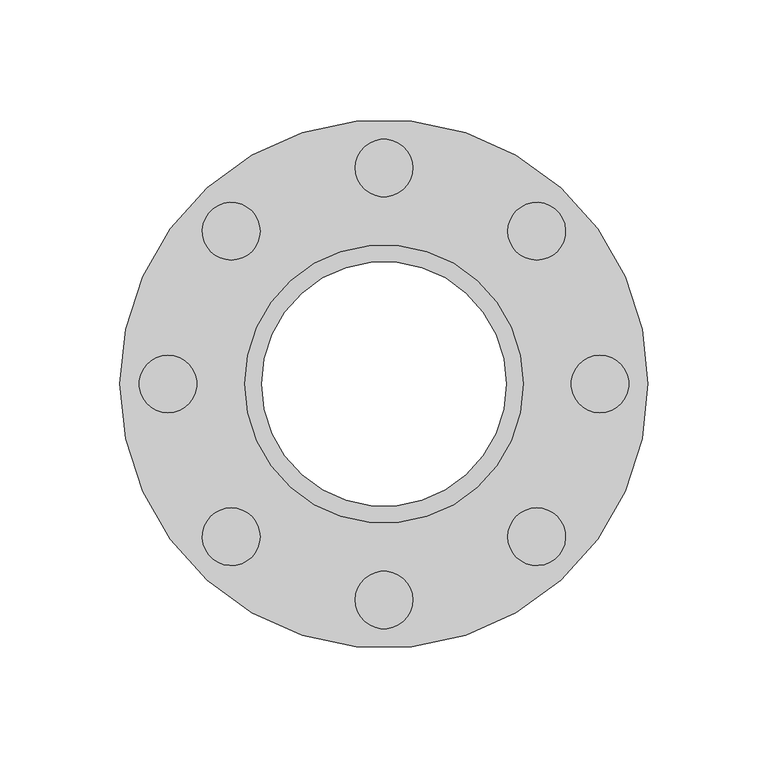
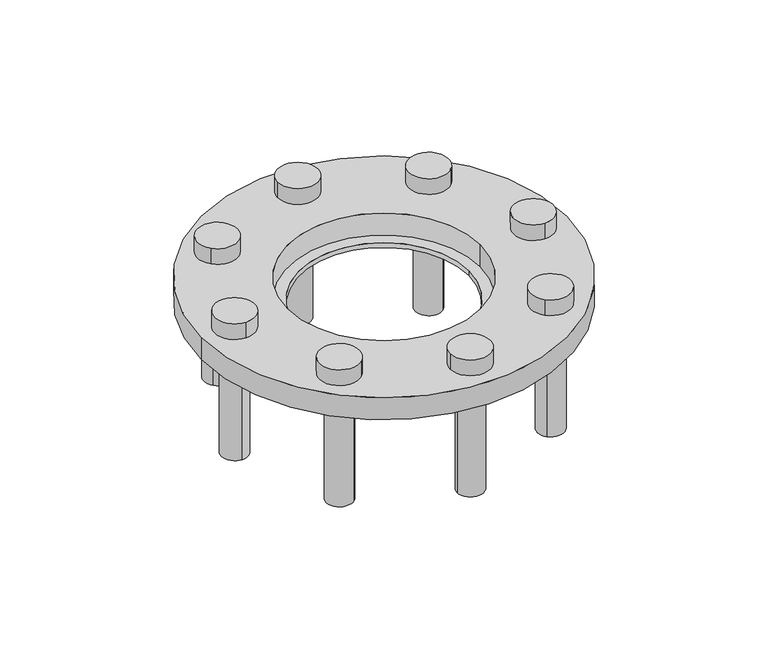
"""IFC4 building model written with IfcOpenShell, lengths in millimetres: pipe fitting geometry, NLRS_52_PIF_UN_PE set flens_geb : DN50-300 / ø50-315."""

from ifc_helpers import new_model, si_unit, point, frame, frame_2d, origin, origin_with_axes, origin_2d, place, context, project, spatial, circle_curve, trimmed, segment, composite_curve, outline, extrude, source, transform, mapped, element, save


def pipe_fitting_94b47f5e(model_context):
    return source(origin(), model_context, "Body", "SweptSolid", [
        extrude(outline(composite_curve([segment(trimmed(circle_curve(frame_2d((90.0, 0.0)), 12.0), [point((90.0, 12.0))], [point((90.0, -12.0))], False, "CARTESIAN"), True, "CONTINUOUS"), segment(trimmed(circle_curve(frame_2d((90.0, 0.0)), 12.0), [point((90.0, -12.0))], [point((90.0, 12.0))], False, "CARTESIAN"), True, "CONTINUOUS")], self_intersect=False)), frame((0.0, 0.0, 17.0), z_axis=(0.0, 0.0, 1.0), x_axis=(1.0, 0.0, 0.0)), (0.0, 0.0, 1.0), 10.0),
        extrude(outline(composite_curve([segment(trimmed(circle_curve(frame_2d((90.0, 0.0)), 8.0), [point((90.0, 8.0))], [point((90.0, -8.0))], False, "CARTESIAN"), True, "CONTINUOUS"), segment(trimmed(circle_curve(frame_2d((90.0, 0.0)), 8.0), [point((90.0, -8.0))], [point((90.0, 8.0))], False, "CARTESIAN"), True, "CONTINUOUS")], self_intersect=False)), frame((0.0, 0.0, -63.0), z_axis=(0.0, 0.0, 1.0), x_axis=(1.0, 0.0, 0.0)), (0.0, 0.0, 1.0), 80.0),
        extrude(outline(composite_curve([segment(trimmed(circle_curve(frame_2d((63.6396103, -63.6396103)), 12.0), [point((72.1248917, -55.1543289))], [point((55.1543289, -72.1248917))], False, "CARTESIAN"), True, "CONTINUOUS"), segment(trimmed(circle_curve(frame_2d((63.6396103, -63.6396103)), 12.0), [point((55.1543289, -72.1248917))], [point((72.1248917, -55.1543289))], False, "CARTESIAN"), True, "CONTINUOUS")], self_intersect=False)), frame((0.0, 0.0, 17.0), z_axis=(0.0, 0.0, 1.0), x_axis=(1.0, 0.0, 0.0)), (0.0, 0.0, 1.0), 10.0),
        extrude(outline(composite_curve([segment(trimmed(circle_curve(frame_2d((63.6396103, -63.6396103)), 8.0), [point((69.2964646, -57.9827561))], [point((57.9827561, -69.2964646))], False, "CARTESIAN"), True, "CONTINUOUS"), segment(trimmed(circle_curve(frame_2d((63.6396103, -63.6396103)), 8.0), [point((57.9827561, -69.2964646))], [point((69.2964646, -57.9827561))], False, "CARTESIAN"), True, "CONTINUOUS")], self_intersect=False)), frame((0.0, 0.0, -63.0), z_axis=(0.0, 0.0, 1.0), x_axis=(1.0, 0.0, 0.0)), (0.0, 0.0, 1.0), 80.0),
        extrude(outline(composite_curve([segment(trimmed(circle_curve(frame_2d((0.0, -90.0)), 12.0), [point((12.0, -90.0))], [point((-12.0, -90.0))], False, "CARTESIAN"), True, "CONTINUOUS"), segment(trimmed(circle_curve(frame_2d((0.0, -90.0)), 12.0), [point((-12.0, -90.0))], [point((12.0, -90.0))], False, "CARTESIAN"), True, "CONTINUOUS")], self_intersect=False)), frame((0.0, 0.0, 17.0), z_axis=(0.0, 0.0, 1.0), x_axis=(1.0, 0.0, 0.0)), (0.0, 0.0, 1.0), 10.0),
        extrude(outline(composite_curve([segment(trimmed(circle_curve(frame_2d((0.0, -90.0)), 8.0), [point((8.0, -90.0))], [point((-8.0, -90.0))], False, "CARTESIAN"), True, "CONTINUOUS"), segment(trimmed(circle_curve(frame_2d((0.0, -90.0)), 8.0), [point((-8.0, -90.0))], [point((8.0, -90.0))], False, "CARTESIAN"), True, "CONTINUOUS")], self_intersect=False)), frame((0.0, 0.0, -63.0), z_axis=(0.0, 0.0, 1.0), x_axis=(1.0, 0.0, 0.0)), (0.0, 0.0, 1.0), 80.0),
        extrude(outline(composite_curve([segment(trimmed(circle_curve(frame_2d((-63.6396103, -63.6396103)), 12.0), [point((-55.1543289, -72.1248917))], [point((-72.1248917, -55.1543289))], False, "CARTESIAN"), True, "CONTINUOUS"), segment(trimmed(circle_curve(frame_2d((-63.6396103, -63.6396103)), 12.0), [point((-72.1248917, -55.1543289))], [point((-55.1543289, -72.1248917))], False, "CARTESIAN"), True, "CONTINUOUS")], self_intersect=False)), frame((0.0, 0.0, 17.0), z_axis=(0.0, 0.0, 1.0), x_axis=(1.0, 0.0, 0.0)), (0.0, 0.0, 1.0), 10.0),
        extrude(outline(composite_curve([segment(trimmed(circle_curve(frame_2d((-63.6396103, -63.6396103)), 8.0), [point((-57.9827561, -69.2964646))], [point((-69.2964646, -57.9827561))], False, "CARTESIAN"), True, "CONTINUOUS"), segment(trimmed(circle_curve(frame_2d((-63.6396103, -63.6396103)), 8.0), [point((-69.2964646, -57.9827561))], [point((-57.9827561, -69.2964646))], False, "CARTESIAN"), True, "CONTINUOUS")], self_intersect=False)), frame((0.0, 0.0, -63.0), z_axis=(0.0, 0.0, 1.0), x_axis=(1.0, 0.0, 0.0)), (0.0, 0.0, 1.0), 80.0),
        extrude(outline(composite_curve([segment(trimmed(circle_curve(frame_2d((-90.0, 0.0)), 12.0), [point((-90.0, -12.0))], [point((-90.0, 12.0))], False, "CARTESIAN"), True, "CONTINUOUS"), segment(trimmed(circle_curve(frame_2d((-90.0, 0.0)), 12.0), [point((-90.0, 12.0))], [point((-90.0, -12.0))], False, "CARTESIAN"), True, "CONTINUOUS")], self_intersect=False)), frame((0.0, 0.0, 17.0), z_axis=(0.0, 0.0, 1.0), x_axis=(1.0, 0.0, 0.0)), (0.0, 0.0, 1.0), 10.0),
        extrude(outline(composite_curve([segment(trimmed(circle_curve(frame_2d((-90.0, 0.0)), 8.0), [point((-90.0, -8.0))], [point((-90.0, 8.0))], False, "CARTESIAN"), True, "CONTINUOUS"), segment(trimmed(circle_curve(frame_2d((-90.0, 0.0)), 8.0), [point((-90.0, 8.0))], [point((-90.0, -8.0))], False, "CARTESIAN"), True, "CONTINUOUS")], self_intersect=False)), frame((0.0, 0.0, -63.0), z_axis=(0.0, 0.0, 1.0), x_axis=(1.0, 0.0, 0.0)), (0.0, 0.0, 1.0), 80.0),
        extrude(outline(composite_curve([segment(trimmed(circle_curve(frame_2d((-63.6396103, 63.6396103)), 12.0), [point((-72.1248917, 55.1543289))], [point((-55.1543289, 72.1248917))], False, "CARTESIAN"), True, "CONTINUOUS"), segment(trimmed(circle_curve(frame_2d((-63.6396103, 63.6396103)), 12.0), [point((-55.1543289, 72.1248917))], [point((-72.1248917, 55.1543289))], False, "CARTESIAN"), True, "CONTINUOUS")], self_intersect=False)), frame((0.0, 0.0, 17.0), z_axis=(0.0, 0.0, 1.0), x_axis=(1.0, 0.0, 0.0)), (0.0, 0.0, 1.0), 10.0),
        extrude(outline(composite_curve([segment(trimmed(circle_curve(frame_2d((-63.6396103, 63.6396103)), 8.0), [point((-69.2964646, 57.9827561))], [point((-57.9827561, 69.2964646))], False, "CARTESIAN"), True, "CONTINUOUS"), segment(trimmed(circle_curve(frame_2d((-63.6396103, 63.6396103)), 8.0), [point((-57.9827561, 69.2964646))], [point((-69.2964646, 57.9827561))], False, "CARTESIAN"), True, "CONTINUOUS")], self_intersect=False)), frame((0.0, 0.0, -63.0), z_axis=(0.0, 0.0, 1.0), x_axis=(1.0, 0.0, 0.0)), (0.0, 0.0, 1.0), 80.0),
        extrude(outline(composite_curve([segment(trimmed(circle_curve(frame_2d((63.6396103, 63.6396103)), 12.0), [point((55.1543289, 72.1248917))], [point((72.1248917, 55.1543289))], False, "CARTESIAN"), True, "CONTINUOUS"), segment(trimmed(circle_curve(frame_2d((63.6396103, 63.6396103)), 12.0), [point((72.1248917, 55.1543289))], [point((55.1543289, 72.1248917))], False, "CARTESIAN"), True, "CONTINUOUS")], self_intersect=False)), frame((0.0, 0.0, 17.0), z_axis=(0.0, 0.0, 1.0), x_axis=(1.0, 0.0, 0.0)), (0.0, 0.0, 1.0), 10.0),
        extrude(outline(composite_curve([segment(trimmed(circle_curve(frame_2d((63.6396103, 63.6396103)), 8.0), [point((57.9827561, 69.2964646))], [point((69.2964646, 57.9827561))], False, "CARTESIAN"), True, "CONTINUOUS"), segment(trimmed(circle_curve(frame_2d((63.6396103, 63.6396103)), 8.0), [point((69.2964646, 57.9827561))], [point((57.9827561, 69.2964646))], False, "CARTESIAN"), True, "CONTINUOUS")], self_intersect=False)), frame((0.0, 0.0, -63.0), z_axis=(0.0, 0.0, 1.0), x_axis=(1.0, 0.0, 0.0)), (0.0, 0.0, 1.0), 80.0),
        extrude(outline(composite_curve([segment(trimmed(circle_curve(frame_2d((0.0, 90.0)), 12.0), [point((-12.0, 90.0))], [point((12.0, 90.0))], False, "CARTESIAN"), True, "CONTINUOUS"), segment(trimmed(circle_curve(frame_2d((0.0, 90.0)), 12.0), [point((12.0, 90.0))], [point((-12.0, 90.0))], False, "CARTESIAN"), True, "CONTINUOUS")], self_intersect=False)), frame((0.0, 0.0, 17.0), z_axis=(0.0, 0.0, 1.0), x_axis=(1.0, 0.0, 0.0)), (0.0, 0.0, 1.0), 10.0),
        extrude(outline(composite_curve([segment(trimmed(circle_curve(frame_2d((0.0, 90.0)), 8.0), [point((-8.0, 90.0))], [point((8.0, 90.0))], False, "CARTESIAN"), True, "CONTINUOUS"), segment(trimmed(circle_curve(frame_2d((0.0, 90.0)), 8.0), [point((8.0, 90.0))], [point((-8.0, 90.0))], False, "CARTESIAN"), True, "CONTINUOUS")], self_intersect=False)), frame((0.0, 0.0, -63.0), z_axis=(0.0, 0.0, 1.0), x_axis=(1.0, 0.0, 0.0)), (0.0, 0.0, 1.0), 80.0),
        extrude(outline(composite_curve([segment(trimmed(circle_curve(origin_2d(), 110.0), [point((-110.0, 0.0))], [point((110.0, 0.0))], False, "CARTESIAN"), True, "CONTINUOUS"), segment(trimmed(circle_curve(origin_2d(), 110.0), [point((110.0, 0.0))], [point((-110.0, 0.0))], False, "CARTESIAN"), True, "CONTINUOUS")], self_intersect=False), holes=[composite_curve([segment(trimmed(circle_curve(origin_2d(), 58.0), [point((-58.0, 0.0))], [point((58.0, 0.0))], True, "CARTESIAN"), True, "CONTINUOUS"), segment(trimmed(circle_curve(origin_2d(), 58.0), [point((58.0, 0.0))], [point((-58.0, 0.0))], True, "CARTESIAN"), True, "CONTINUOUS")], self_intersect=False), composite_curve([segment(trimmed(circle_curve(frame_2d((0.0, 90.0)), 9.0), [point((-9.0, 90.0))], [point((9.0, 90.0))], True, "CARTESIAN"), True, "CONTINUOUS"), segment(trimmed(circle_curve(frame_2d((0.0, 90.0)), 9.0), [point((9.0, 90.0))], [point((-9.0, 90.0))], True, "CARTESIAN"), True, "CONTINUOUS")], self_intersect=False), composite_curve([segment(trimmed(circle_curve(frame_2d((63.6396103, 63.6396103)), 9.0), [point((57.2756493, 70.0035713))], [point((70.0035713, 57.2756493))], True, "CARTESIAN"), True, "CONTINUOUS"), segment(trimmed(circle_curve(frame_2d((63.6396103, 63.6396103)), 9.0), [point((70.0035713, 57.2756493))], [point((57.2756493, 70.0035713))], True, "CARTESIAN"), True, "CONTINUOUS")], self_intersect=False), composite_curve([segment(trimmed(circle_curve(frame_2d((-63.6396103, 63.6396103)), 9.0), [point((-70.0035713, 57.2756493))], [point((-57.2756493, 70.0035713))], True, "CARTESIAN"), True, "CONTINUOUS"), segment(trimmed(circle_curve(frame_2d((-63.6396103, 63.6396103)), 9.0), [point((-57.2756493, 70.0035713))], [point((-70.0035713, 57.2756493))], True, "CARTESIAN"), True, "CONTINUOUS")], self_intersect=False), composite_curve([segment(trimmed(circle_curve(frame_2d((-90.0, 0.0)), 9.0), [point((-90.0, -9.0))], [point((-90.0, 9.0))], True, "CARTESIAN"), True, "CONTINUOUS"), segment(trimmed(circle_curve(frame_2d((-90.0, 0.0)), 9.0), [point((-90.0, 9.0))], [point((-90.0, -9.0))], True, "CARTESIAN"), True, "CONTINUOUS")], self_intersect=False), composite_curve([segment(trimmed(circle_curve(frame_2d((-63.6396103, -63.6396103)), 9.0), [point((-57.2756493, -70.0035713))], [point((-70.0035713, -57.2756493))], True, "CARTESIAN"), True, "CONTINUOUS"), segment(trimmed(circle_curve(frame_2d((-63.6396103, -63.6396103)), 9.0), [point((-70.0035713, -57.2756493))], [point((-57.2756493, -70.0035713))], True, "CARTESIAN"), True, "CONTINUOUS")], self_intersect=False), composite_curve([segment(trimmed(circle_curve(frame_2d((0.0, -90.0)), 9.0), [point((9.0, -90.0))], [point((-9.0, -90.0))], True, "CARTESIAN"), True, "CONTINUOUS"), segment(trimmed(circle_curve(frame_2d((0.0, -90.0)), 9.0), [point((-9.0, -90.0))], [point((9.0, -90.0))], True, "CARTESIAN"), True, "CONTINUOUS")], self_intersect=False), composite_curve([segment(trimmed(circle_curve(frame_2d((63.6396103, -63.6396103)), 9.0), [point((70.0035713, -57.2756493))], [point((57.2756493, -70.0035713))], True, "CARTESIAN"), True, "CONTINUOUS"), segment(trimmed(circle_curve(frame_2d((63.6396103, -63.6396103)), 9.0), [point((57.2756493, -70.0035713))], [point((70.0035713, -57.2756493))], True, "CARTESIAN"), True, "CONTINUOUS")], self_intersect=False), composite_curve([segment(trimmed(circle_curve(frame_2d((90.0, 0.0)), 9.0), [point((90.0, 9.0))], [point((90.0, -9.0))], True, "CARTESIAN"), True, "CONTINUOUS"), segment(trimmed(circle_curve(frame_2d((90.0, 0.0)), 9.0), [point((90.0, -9.0))], [point((90.0, 9.0))], True, "CARTESIAN"), True, "CONTINUOUS")], self_intersect=False)]), frame((0.0, 0.0, 3.0), z_axis=(0.0, 0.0, 1.0), x_axis=(1.0, 0.0, 0.0)), (0.0, 0.0, 1.0), 14.0),
        extrude(outline(composite_curve([segment(trimmed(circle_curve(origin_2d(), 81.0), [point((-81.0, 0.0))], [point((81.0, 0.0))], False, "CARTESIAN"), True, "CONTINUOUS"), segment(trimmed(circle_curve(origin_2d(), 81.0), [point((81.0, 0.0))], [point((-81.0, 0.0))], False, "CARTESIAN"), True, "CONTINUOUS")], self_intersect=False), holes=[composite_curve([segment(trimmed(circle_curve(origin_2d(), 51.0), [point((-51.0, 0.0))], [point((51.0, 0.0))], True, "CARTESIAN"), True, "CONTINUOUS"), segment(trimmed(circle_curve(origin_2d(), 51.0), [point((51.0, 0.0))], [point((-51.0, 0.0))], True, "CARTESIAN"), True, "CONTINUOUS")], self_intersect=False)]), origin_with_axes(), (0.0, 0.0, 1.0), 3.0),
    ])


if __name__ == "__main__":
    model = new_model("IFC4")
    model_context = context("Model", 3, world=origin())
    ifc_project = project(units=[si_unit("LENGTHUNIT", "METRE", prefix="MILLI")], contexts=[model_context])
    site = spatial("IfcSite", under=ifc_project)
    building = spatial("IfcBuilding", under=site)
    placement = place(None, origin())
    pipe_fitting_shape = pipe_fitting_94b47f5e(model_context)
    element("IfcPipeFitting", 1, ObjectType="NLRS_52_PIF_UN_PE set flens_geb : DN50-300 / ø50-315", at=placement, inside=building, context=model_context, shape_type="MappedRepresentation", body=[
        mapped(pipe_fitting_shape, transform((0.0, 0.0, 0.0), x_axis=(1.0, 0.0, 0.0), y_axis=(0.0, 1.0, 0.0), z_axis=(0.0, 0.0, 1.0))),
    ])
    save(model, "model.ifc")
